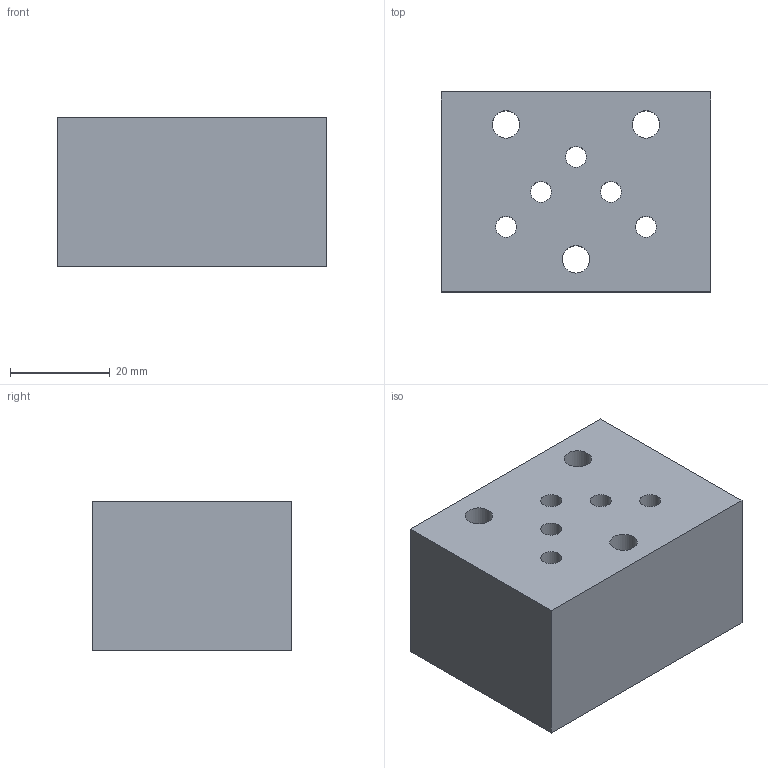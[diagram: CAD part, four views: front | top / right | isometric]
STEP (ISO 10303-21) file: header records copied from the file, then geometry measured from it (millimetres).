
FILE_DESCRIPTION(('Bauteilbeschreibung','HiCAD-Model','HiCAD-STEP-TRANSLATION','Bauteilbeschreibung'),'2;1');
FILE_NAME('C:/_EIGENE_DATEN/DXF_STEP/BRV_4_3508.STP','2008-08-25T11:55:27+00:00',('Konstrukteur'),('Konstrukteur Firma GmbH'),' HiCAD neXt 2007, Step 3.1.1212.3C ','HiCAD neXt 2007','confidential');
FILE_SCHEMA(('AUTOMOTIVE_DESIGN { 1 2 10303 214 0 1 1 1 }'));
Length unit declared in the file: millimetre
Products named in the file (3): BRV_4_3508; BRV_4; A07D4A7C
Assembly tree (2 placements, depth 3):
  BRV_4_3508
    BRV_4
      A07D4A7C
Bounding box: 54 x 40 x 30 mm (x, y, z)
Volume: 60296.1 mm3; surface area: 13303 mm2
Topology: 1 solids, 1 shells, 24 faces, 64 edges, 47 vertices
Faces by surface type: cylinder 13, plane 11
Full cylindrical faces by diameter (mm): 4.2 x5, 5.5 x3, 8.6 x5
Entity records: 689 total; most frequent: DIRECTION 120, CARTESIAN_POINT 100, ORIENTED_EDGE 76, EDGE_LOOP 58, AXIS2_PLACEMENT_3D 54, EDGE_CURVE 38, FACE_BOUND 34, VERTEX_POINT 34
